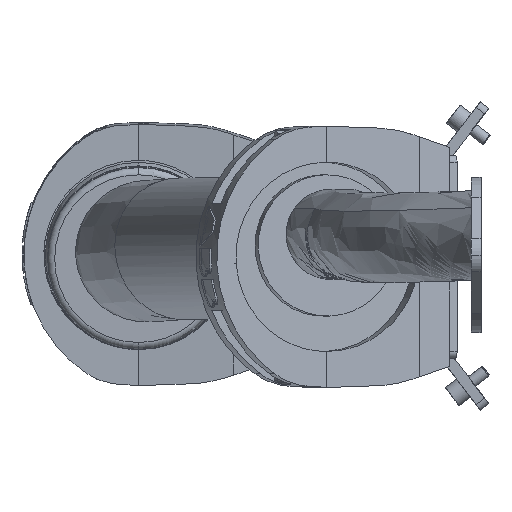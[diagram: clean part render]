
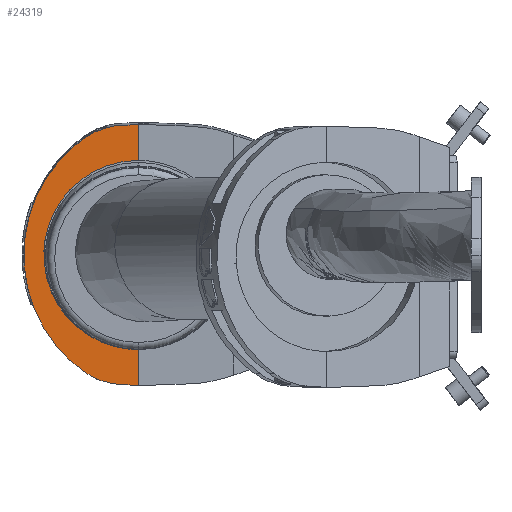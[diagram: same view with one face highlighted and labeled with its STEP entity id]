
A CAD part, left-side view. The second image highlights one B-rep face of the part: STEP entity #24319.
In plain terms, the highlighted planar face has unit normal (-0.999, -0.035, -0.028).
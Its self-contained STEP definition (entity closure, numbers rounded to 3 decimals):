
#204 = CARTESIAN_POINT ( 'NONE',  ( 1717., 283., 2212.542 ) ) ;
#504 = ORIENTED_EDGE ( 'NONE', *, *, #11716, .F. ) ;
#1277 = AXIS2_PLACEMENT_3D ( 'NONE', #23704, #8830, #18327 ) ;
#1425 =( BOUNDED_CURVE ( )  B_SPLINE_CURVE ( 3, ( #16847, #14729, #11100, #5236 ),
 .UNSPECIFIED., .F., .F. ) 
 B_SPLINE_CURVE_WITH_KNOTS ( ( 4, 4 ),
 ( 4.747, 5.325 ),
 .UNSPECIFIED. ) 
 CURVE ( )  GEOMETRIC_REPRESENTATION_ITEM ( )  RATIONAL_B_SPLINE_CURVE ( ( 1., 0.972, 0.972, 1. ) ) 
 REPRESENTATION_ITEM ( '' )  );
#1494 = DIRECTION ( 'NONE',  ( -0.036, 0.999, 0.034 ) ) ;
#1787 = ORIENTED_EDGE ( 'NONE', *, *, #10909, .F. ) ;
#1860 = CARTESIAN_POINT ( 'NONE',  ( 1713.732, 336.471, 2262.362 ) ) ;
#1966 = ORIENTED_EDGE ( 'NONE', *, *, #18015, .F. ) ;
#2572 = DIRECTION ( 'NONE',  ( 0.034, -0.999, 0.036 ) ) ;
#2763 = CARTESIAN_POINT ( 'NONE',  ( 1712.564, 313.598, 2332.319 ) ) ;
#2843 = FACE_OUTER_BOUND ( 'NONE', #3042, .T. ) ;
#3042 = EDGE_LOOP ( 'NONE', ( #24340, #1966, #1787, #18909, #504, #16709, #8501, #4601, #16187 ) ) ;
#3331 = VERTEX_POINT ( 'NONE', #13896 ) ;
#3712 =( BOUNDED_CURVE ( )  B_SPLINE_CURVE ( 3, ( #2763, #6631, #10375, #22249 ),
 .UNSPECIFIED., .F., .T. ) 
 B_SPLINE_CURVE_WITH_KNOTS ( ( 4, 4 ),
 ( 0.958, 1.536 ),
 .UNSPECIFIED. ) 
 CURVE ( )  GEOMETRIC_REPRESENTATION_ITEM ( )  RATIONAL_B_SPLINE_CURVE ( ( 1., 0.972, 0.972, 1. ) ) 
 REPRESENTATION_ITEM ( '' )  );
#3735 = CARTESIAN_POINT ( 'NONE',  ( 1713.987, 283., 2319.699 ) ) ;
#4601 = ORIENTED_EDGE ( 'NONE', *, *, #13917, .F. ) ;
#4988 = CARTESIAN_POINT ( 'NONE',  ( 1713.419, 283., 2339.917 ) ) ;
#5236 = CARTESIAN_POINT ( 'NONE',  ( 1716.288, 313.598, 2199.863 ) ) ;
#5279 = EDGE_CURVE ( 'NONE', #19828, #7762, #1425, .T. ) ;
#5951 = EDGE_CURVE ( 'NONE', #23247, #10435, #10688, .T. ) ;
#6563 = CARTESIAN_POINT ( 'NONE',  ( 1713.47, 281.499, 2339.971 ) ) ;
#6631 = CARTESIAN_POINT ( 'NONE',  ( 1712.66, 307.204, 2336.82 ) ) ;
#7762 = VERTEX_POINT ( 'NONE', #7888 ) ;
#7888 = CARTESIAN_POINT ( 'NONE',  ( 1716.288, 313.598, 2199.863 ) ) ;
#8149 = EDGE_CURVE ( 'NONE', #20007, #19828, #8745, .T. ) ;
#8220 = VERTEX_POINT ( 'NONE', #24113 ) ;
#8501 = ORIENTED_EDGE ( 'NONE', *, *, #8149, .F. ) ;
#8713 = CARTESIAN_POINT ( 'NONE',  ( 1717.247, 291.983, 2192.629 ) ) ;
#8745 = LINE ( 'NONE', #23995, #11019 ) ;
#8830 = DIRECTION ( 'NONE',  ( 0.999, 0.035, 0.028 ) ) ;
#8937 = VERTEX_POINT ( 'NONE', #21679 ) ;
#9352 = CARTESIAN_POINT ( 'NONE',  ( 1713.987, 283., 2319.699 ) ) ;
#9829 = DIRECTION ( 'NONE',  ( 0.028, 0., -1. ) ) ;
#10375 = CARTESIAN_POINT ( 'NONE',  ( 1712.849, 299.794, 2339.314 ) ) ;
#10435 = VERTEX_POINT ( 'NONE', #21968 ) ;
#10688 =( BOUNDED_CURVE ( )  B_SPLINE_CURVE ( 3, ( #9352, #13244, #20867, #1860 ),
 .UNSPECIFIED., .F., .F. ) 
 B_SPLINE_CURVE_WITH_KNOTS ( ( 4, 4 ),
 ( 1.571, 3.211 ),
 .UNSPECIFIED. ) 
 CURVE ( )  GEOMETRIC_REPRESENTATION_ITEM ( )  RATIONAL_B_SPLINE_CURVE ( ( 1., 0.788, 0.788, 1. ) ) 
 REPRESENTATION_ITEM ( '' )  );
#10759 = EDGE_CURVE ( 'NONE', #10435, #21513, #13414, .T. ) ;
#10909 = EDGE_CURVE ( 'NONE', #8937, #3331, #21692, .T. ) ;
#11019 = VECTOR ( 'NONE', #1494, 1000. ) ;
#11090 = VECTOR ( 'NONE', #2572, 1000. ) ;
#11100 = CARTESIAN_POINT ( 'NONE',  ( 1716.638, 307.204, 2195.374 ) ) ;
#11206 =( BOUNDED_CURVE ( )  B_SPLINE_CURVE ( 3, ( #12174, #23777, #19552, #16138 ),
 .UNSPECIFIED., .F., .T. ) 
 B_SPLINE_CURVE_WITH_KNOTS ( ( 4, 4 ),
 ( 5.325, 7.241 ),
 .UNSPECIFIED. ) 
 CURVE ( )  GEOMETRIC_REPRESENTATION_ITEM ( )  RATIONAL_B_SPLINE_CURVE ( ( 1., 0.717, 0.717, 1. ) ) 
 REPRESENTATION_ITEM ( '' )  );
#11716 = EDGE_CURVE ( 'NONE', #7762, #8220, #11206, .T. ) ;
#11968 = CARTESIAN_POINT ( 'NONE',  ( 1713.732, 336.471, 2262.362 ) ) ;
#12174 = CARTESIAN_POINT ( 'NONE',  ( 1716.288, 313.598, 2199.863 ) ) ;
#12623 = DIRECTION ( 'NONE',  ( 0.028, 0., -1. ) ) ;
#13244 = CARTESIAN_POINT ( 'NONE',  ( 1712.83, 316.15, 2319.667 ) ) ;
#13414 =( BOUNDED_CURVE ( )  B_SPLINE_CURVE ( 3, ( #11968, #19583, #19452, #204 ),
 .UNSPECIFIED., .F., .F. ) 
 B_SPLINE_CURVE_WITH_KNOTS ( ( 4, 4 ),
 ( 3.211, 4.712 ),
 .UNSPECIFIED. ) 
 CURVE ( )  GEOMETRIC_REPRESENTATION_ITEM ( )  RATIONAL_B_SPLINE_CURVE ( ( 1., 0.821, 0.821, 1. ) ) 
 REPRESENTATION_ITEM ( '' )  );
#13605 = CARTESIAN_POINT ( 'NONE',  ( 1713.419, 283., 2339.917 ) ) ;
#13896 = CARTESIAN_POINT ( 'NONE',  ( 1713.419, 283., 2339.917 ) ) ;
#13917 = EDGE_CURVE ( 'NONE', #21513, #20007, #23982, .T. ) ;
#14090 = PLANE ( 'NONE',  #1277 ) ;
#14312 = VECTOR ( 'NONE', #9829, 1000. ) ;
#14729 = CARTESIAN_POINT ( 'NONE',  ( 1716.966, 299.794, 2192.894 ) ) ;
#16138 = CARTESIAN_POINT ( 'NONE',  ( 1712.564, 313.598, 2332.319 ) ) ;
#16187 = ORIENTED_EDGE ( 'NONE', *, *, #10759, .F. ) ;
#16709 = ORIENTED_EDGE ( 'NONE', *, *, #5279, .F. ) ;
#16847 = CARTESIAN_POINT ( 'NONE',  ( 1717.247, 291.983, 2192.629 ) ) ;
#18015 = EDGE_CURVE ( 'NONE', #3331, #23247, #23090, .T. ) ;
#18327 = DIRECTION ( 'NONE',  ( 0.035, -0.999, 0.001 ) ) ;
#18909 = ORIENTED_EDGE ( 'NONE', *, *, #19189, .F. ) ;
#19189 = EDGE_CURVE ( 'NONE', #8220, #8937, #3712, .T. ) ;
#19452 = CARTESIAN_POINT ( 'NONE',  ( 1715.964, 312.701, 2212.513 ) ) ;
#19552 = CARTESIAN_POINT ( 'NONE',  ( 1711.801, 363.997, 2296.837 ) ) ;
#19583 = CARTESIAN_POINT ( 'NONE',  ( 1714.636, 334.416, 2232.746 ) ) ;
#19828 = VERTEX_POINT ( 'NONE', #8713 ) ;
#20007 = VERTEX_POINT ( 'NONE', #21455 ) ;
#20867 = CARTESIAN_POINT ( 'NONE',  ( 1712.722, 338.765, 2295.417 ) ) ;
#21102 = VECTOR ( 'NONE', #12623, 1000. ) ;
#21202 = CARTESIAN_POINT ( 'NONE',  ( 1717., 283., 2212.542 ) ) ;
#21455 = CARTESIAN_POINT ( 'NONE',  ( 1717.569, 283., 2192.325 ) ) ;
#21513 = VERTEX_POINT ( 'NONE', #21202 ) ;
#21679 = CARTESIAN_POINT ( 'NONE',  ( 1713.114, 291.983, 2339.595 ) ) ;
#21692 = LINE ( 'NONE', #6563, #11090 ) ;
#21968 = CARTESIAN_POINT ( 'NONE',  ( 1713.732, 336.471, 2262.362 ) ) ;
#22249 = CARTESIAN_POINT ( 'NONE',  ( 1713.114, 291.983, 2339.595 ) ) ;
#23090 = LINE ( 'NONE', #13605, #14312 ) ;
#23247 = VERTEX_POINT ( 'NONE', #3735 ) ;
#23704 = CARTESIAN_POINT ( 'NONE',  ( 1710.763, 338., 2366.027 ) ) ;
#23777 = CARTESIAN_POINT ( 'NONE',  ( 1713.532, 363.997, 2235.246 ) ) ;
#23982 = LINE ( 'NONE', #4988, #21102 ) ;
#23995 = CARTESIAN_POINT ( 'NONE',  ( 1717.623, 281.499, 2192.274 ) ) ;
#24113 = CARTESIAN_POINT ( 'NONE',  ( 1712.564, 313.598, 2332.319 ) ) ;
#24319 = ADVANCED_FACE ( 'NONE', ( #2843 ), #14090, .F. ) ;
#24340 = ORIENTED_EDGE ( 'NONE', *, *, #5951, .F. ) ;
